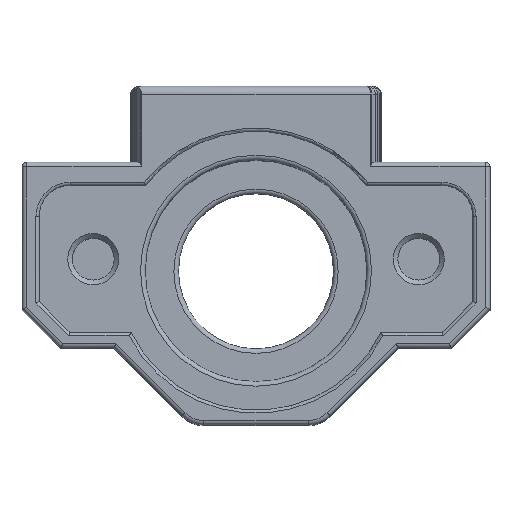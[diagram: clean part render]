
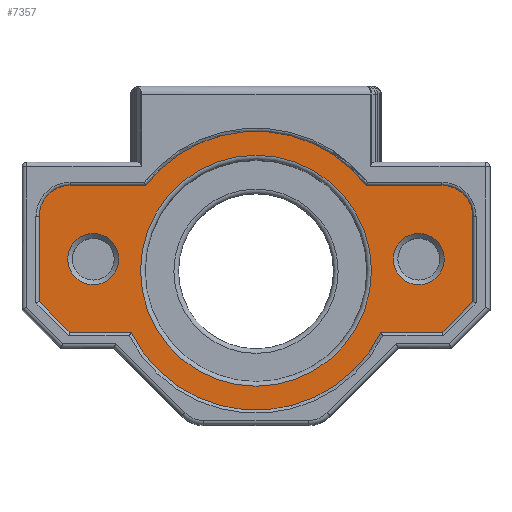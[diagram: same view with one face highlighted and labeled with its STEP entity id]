
A CAD part, top view. The second image highlights one B-rep face of the part: STEP entity #7357.
In plain terms, the highlighted planar face has unit normal (0, 0, 1).
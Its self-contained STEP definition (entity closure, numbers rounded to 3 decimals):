
#28=FACE_BOUND('',#2459,.T.);
#29=FACE_BOUND('',#2460,.T.);
#30=FACE_BOUND('',#2461,.T.);
#187=LINE('',#10531,#944);
#190=LINE('',#10539,#947);
#192=LINE('',#10543,#949);
#194=LINE('',#10547,#951);
#210=LINE('',#10591,#967);
#211=LINE('',#10593,#968);
#212=LINE('',#10595,#969);
#213=LINE('',#10598,#970);
#944=VECTOR('',#8432,10.);
#947=VECTOR('',#8441,10.);
#949=VECTOR('',#8445,10.);
#951=VECTOR('',#8449,10.);
#967=VECTOR('',#8481,10.);
#968=VECTOR('',#8482,10.);
#969=VECTOR('',#8483,10.);
#970=VECTOR('',#8486,10.);
#1673=PLANE('',#7845);
#1913=CIRCLE('',#7832,9.);
#1914=CIRCLE('',#7835,2.);
#1917=CIRCLE('',#7843,1.65);
#1919=CIRCLE('',#7846,9.);
#1920=CIRCLE('',#7847,2.);
#1921=CIRCLE('',#7848,1.65);
#1922=CIRCLE('',#7849,7.45);
#1923=CIRCLE('',#7850,7.45);
#2025=FACE_OUTER_BOUND('',#2458,.T.);
#2458=EDGE_LOOP('',(#5169,#5170,#5171,#5172,#5173,#5174,#5175,#5176,#5177,
#5178,#5179,#5180));
#2459=EDGE_LOOP('',(#5181));
#2460=EDGE_LOOP('',(#5182,#5183));
#2461=EDGE_LOOP('',(#5184));
#3221=VERTEX_POINT('',#10523);
#3222=VERTEX_POINT('',#10525);
#3223=VERTEX_POINT('',#10529);
#3224=VERTEX_POINT('',#10533);
#3225=VERTEX_POINT('',#10537);
#3226=VERTEX_POINT('',#10541);
#3227=VERTEX_POINT('',#10545);
#3244=VERTEX_POINT('',#10582);
#3246=VERTEX_POINT('',#10588);
#3247=VERTEX_POINT('',#10590);
#3248=VERTEX_POINT('',#10592);
#3249=VERTEX_POINT('',#10594);
#3250=VERTEX_POINT('',#10596);
#3251=VERTEX_POINT('',#10599);
#3252=VERTEX_POINT('',#10601);
#3253=VERTEX_POINT('',#10602);
#3963=EDGE_CURVE('',#3221,#3222,#1913,.T.);
#3966=EDGE_CURVE('',#3223,#3221,#187,.T.);
#3968=EDGE_CURVE('',#3224,#3223,#1914,.T.);
#3970=EDGE_CURVE('',#3225,#3224,#190,.T.);
#3972=EDGE_CURVE('',#3226,#3225,#192,.T.);
#3974=EDGE_CURVE('',#3227,#3226,#194,.T.);
#3991=EDGE_CURVE('',#3244,#3244,#1917,.T.);
#3994=EDGE_CURVE('',#3246,#3227,#1919,.T.);
#3995=EDGE_CURVE('',#3247,#3246,#210,.T.);
#3996=EDGE_CURVE('',#3248,#3247,#211,.T.);
#3997=EDGE_CURVE('',#3249,#3248,#212,.T.);
#3998=EDGE_CURVE('',#3250,#3249,#1920,.T.);
#3999=EDGE_CURVE('',#3222,#3250,#213,.T.);
#4000=EDGE_CURVE('',#3251,#3251,#1921,.T.);
#4001=EDGE_CURVE('',#3252,#3253,#1922,.T.);
#4002=EDGE_CURVE('',#3253,#3252,#1923,.T.);
#5169=ORIENTED_EDGE('',*,*,#3972,.F.);
#5170=ORIENTED_EDGE('',*,*,#3974,.F.);
#5171=ORIENTED_EDGE('',*,*,#3994,.F.);
#5172=ORIENTED_EDGE('',*,*,#3995,.F.);
#5173=ORIENTED_EDGE('',*,*,#3996,.F.);
#5174=ORIENTED_EDGE('',*,*,#3997,.F.);
#5175=ORIENTED_EDGE('',*,*,#3998,.F.);
#5176=ORIENTED_EDGE('',*,*,#3999,.F.);
#5177=ORIENTED_EDGE('',*,*,#3963,.F.);
#5178=ORIENTED_EDGE('',*,*,#3966,.F.);
#5179=ORIENTED_EDGE('',*,*,#3968,.F.);
#5180=ORIENTED_EDGE('',*,*,#3970,.F.);
#5181=ORIENTED_EDGE('',*,*,#4000,.F.);
#5182=ORIENTED_EDGE('',*,*,#4001,.F.);
#5183=ORIENTED_EDGE('',*,*,#4002,.F.);
#5184=ORIENTED_EDGE('',*,*,#3991,.F.);
#7357=ADVANCED_FACE('',(#2025,#28,#29,#30),#1673,.T.);
#7832=AXIS2_PLACEMENT_3D('',#10526,#8426,#8427);
#7835=AXIS2_PLACEMENT_3D('',#10535,#8436,#8437);
#7843=AXIS2_PLACEMENT_3D('',#10583,#8472,#8473);
#7845=AXIS2_PLACEMENT_3D('',#10587,#8477,#8478);
#7846=AXIS2_PLACEMENT_3D('',#10589,#8479,#8480);
#7847=AXIS2_PLACEMENT_3D('',#10597,#8484,#8485);
#7848=AXIS2_PLACEMENT_3D('',#10600,#8487,#8488);
#7849=AXIS2_PLACEMENT_3D('',#10603,#8489,#8490);
#7850=AXIS2_PLACEMENT_3D('',#10604,#8491,#8492);
#8426=DIRECTION('center_axis',(0.,0.,-1.));
#8427=DIRECTION('ref_axis',(-0.792,-0.611,0.));
#8432=DIRECTION('',(1.,0.,0.));
#8436=DIRECTION('center_axis',(0.,0.,-1.));
#8437=DIRECTION('ref_axis',(0.,-1.,0.));
#8441=DIRECTION('',(0.,1.,0.));
#8445=DIRECTION('',(-0.707,0.707,0.));
#8449=DIRECTION('',(-1.,0.,0.));
#8472=DIRECTION('center_axis',(0.,0.,1.));
#8473=DIRECTION('ref_axis',(-1.,0.,0.));
#8477=DIRECTION('center_axis',(0.,0.,1.));
#8478=DIRECTION('ref_axis',(1.,0.,0.));
#8479=DIRECTION('center_axis',(0.,0.,-1.));
#8480=DIRECTION('ref_axis',(0.896,0.444,0.));
#8481=DIRECTION('',(-1.,0.,0.));
#8482=DIRECTION('',(-0.707,-0.707,0.));
#8483=DIRECTION('',(0.,-1.,0.));
#8484=DIRECTION('center_axis',(0.,0.,-1.));
#8485=DIRECTION('ref_axis',(-1.,0.,0.));
#8486=DIRECTION('',(1.,0.,0.));
#8487=DIRECTION('center_axis',(0.,0.,1.));
#8488=DIRECTION('ref_axis',(-1.,0.,0.));
#8489=DIRECTION('center_axis',(0.,0.,1.));
#8490=DIRECTION('ref_axis',(-1.,0.,0.));
#8491=DIRECTION('center_axis',(0.,0.,1.));
#8492=DIRECTION('ref_axis',(-1.,0.,0.));
#10523=CARTESIAN_POINT('',(-7.124,-6.4,10.));
#10525=CARTESIAN_POINT('',(7.124,-6.4,10.));
#10526=CARTESIAN_POINT('Origin',(0.,-11.9,10.));
#10529=CARTESIAN_POINT('',(-12.,-6.4,10.));
#10531=CARTESIAN_POINT('',(-12.,-6.4,10.));
#10533=CARTESIAN_POINT('',(-14.,-8.4,10.));
#10535=CARTESIAN_POINT('Origin',(-12.,-8.4,10.));
#10537=CARTESIAN_POINT('',(-14.,-13.9,10.));
#10539=CARTESIAN_POINT('',(-14.,-13.9,10.));
#10541=CARTESIAN_POINT('',(-12.,-15.9,10.));
#10543=CARTESIAN_POINT('',(-12.,-15.9,10.));
#10545=CARTESIAN_POINT('',(-8.062,-15.9,10.));
#10547=CARTESIAN_POINT('',(-8.062,-15.9,10.));
#10582=CARTESIAN_POINT('',(12.15,-11.15,10.));
#10583=CARTESIAN_POINT('Origin',(10.5,-11.15,10.));
#10587=CARTESIAN_POINT('Origin',(0.,-11.55,
10.));
#10588=CARTESIAN_POINT('',(8.062,-15.9,10.));
#10589=CARTESIAN_POINT('Origin',(0.,-11.9,10.));
#10590=CARTESIAN_POINT('',(12.,-15.9,10.));
#10591=CARTESIAN_POINT('',(12.,-15.9,10.));
#10592=CARTESIAN_POINT('',(14.,-13.9,10.));
#10593=CARTESIAN_POINT('',(14.,-13.9,10.));
#10594=CARTESIAN_POINT('',(14.,-8.4,10.));
#10595=CARTESIAN_POINT('',(14.,-8.4,10.));
#10596=CARTESIAN_POINT('',(12.,-6.4,10.));
#10597=CARTESIAN_POINT('Origin',(12.,-8.4,10.));
#10598=CARTESIAN_POINT('',(7.124,-6.4,10.));
#10599=CARTESIAN_POINT('',(-8.85,-11.15,10.));
#10600=CARTESIAN_POINT('Origin',(-10.5,-11.15,10.));
#10601=CARTESIAN_POINT('',(7.45,-11.9,10.));
#10602=CARTESIAN_POINT('',(-7.45,-11.9,10.));
#10603=CARTESIAN_POINT('Origin',(0.,-11.9,10.));
#10604=CARTESIAN_POINT('Origin',(0.,-11.9,10.));
